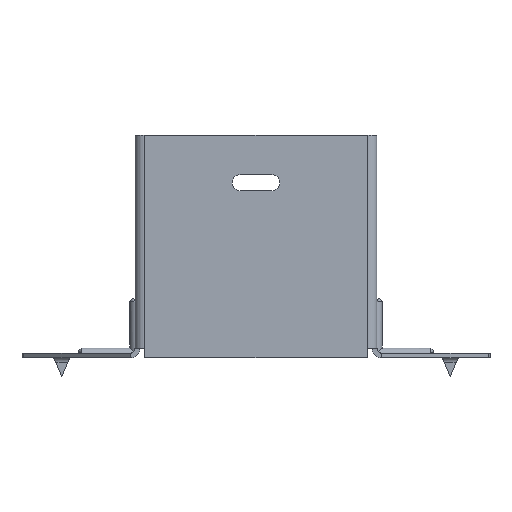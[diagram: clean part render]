
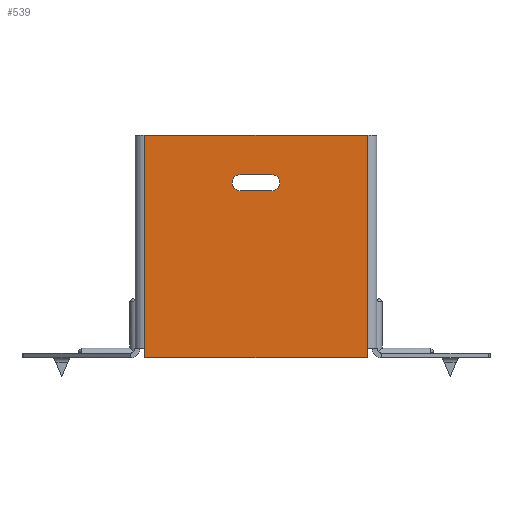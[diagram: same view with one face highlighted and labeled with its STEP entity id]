
A CAD part, front view. The second image highlights one B-rep face of the part: STEP entity #539.
In plain terms, the highlighted planar face has unit normal (0, -1, 0).
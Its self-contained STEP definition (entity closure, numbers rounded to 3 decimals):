
#124 = VERTEX_POINT ( 'NONE', #3733 ) ;
#490 = CARTESIAN_POINT ( 'NONE',  ( -5., 0., -17.5 ) ) ;
#539 = ADVANCED_FACE ( 'NONE', ( #7537, #6747 ), #11800, .F. ) ;
#554 = CARTESIAN_POINT ( 'NONE',  ( -35., 0., 0. ) ) ;
#611 = CARTESIAN_POINT ( 'NONE',  ( -36.5, 0., -70. ) ) ;
#660 = DIRECTION ( 'NONE',  ( 0., 1., 0. ) ) ;
#849 = CARTESIAN_POINT ( 'NONE',  ( -36.5, 0., 0. ) ) ;
#956 = DIRECTION ( 'NONE',  ( 0., 0., 1. ) ) ;
#1091 = CIRCLE ( 'NONE', #5650, 2.5 ) ;
#1140 = CARTESIAN_POINT ( 'NONE',  ( -35., 0., -67. ) ) ;
#1219 = VECTOR ( 'NONE', #7634, 1000. ) ;
#1548 = VECTOR ( 'NONE', #12576, 1000. ) ;
#1562 = CARTESIAN_POINT ( 'NONE',  ( -35., 0., 0. ) ) ;
#1612 = EDGE_CURVE ( 'NONE', #4136, #7292, #1091, .T. ) ;
#1696 = VERTEX_POINT ( 'NONE', #5618 ) ;
#1939 = DIRECTION ( 'NONE',  ( 1., 0., 0. ) ) ;
#2087 = CARTESIAN_POINT ( 'NONE',  ( 35., 0., -70. ) ) ;
#2375 = CIRCLE ( 'NONE', #9990, 2.5 ) ;
#2737 = CARTESIAN_POINT ( 'NONE',  ( 35., 0., -67. ) ) ;
#3114 = CARTESIAN_POINT ( 'NONE',  ( -35., 0., -70. ) ) ;
#3648 = DIRECTION ( 'NONE',  ( 1., 0., 0. ) ) ;
#3733 = CARTESIAN_POINT ( 'NONE',  ( 5., 0., -17.5 ) ) ;
#3754 = DIRECTION ( 'NONE',  ( 0., 0., 1. ) ) ;
#3812 = ORIENTED_EDGE ( 'NONE', *, *, #14395, .T. ) ;
#3940 = ORIENTED_EDGE ( 'NONE', *, *, #3955, .T. ) ;
#3955 = EDGE_CURVE ( 'NONE', #7742, #6443, #10068, .T. ) ;
#4136 = VERTEX_POINT ( 'NONE', #8001 ) ;
#4213 = DIRECTION ( 'NONE',  ( 0., 0., 1. ) ) ;
#4272 = VERTEX_POINT ( 'NONE', #2087 ) ;
#4489 = LINE ( 'NONE', #611, #8540 ) ;
#4925 = AXIS2_PLACEMENT_3D ( 'NONE', #15426, #14251, #9324 ) ;
#5406 = VECTOR ( 'NONE', #956, 1000. ) ;
#5610 = CARTESIAN_POINT ( 'NONE',  ( 5., 0., -15. ) ) ;
#5618 = CARTESIAN_POINT ( 'NONE',  ( 5., 0., -12.5 ) ) ;
#5650 = AXIS2_PLACEMENT_3D ( 'NONE', #8041, #660, #4213 ) ;
#5852 = CARTESIAN_POINT ( 'NONE',  ( -5., 0., -12.5 ) ) ;
#5983 = EDGE_CURVE ( 'NONE', #4272, #6443, #4489, .T. ) ;
#6234 = LINE ( 'NONE', #849, #8369 ) ;
#6299 = ORIENTED_EDGE ( 'NONE', *, *, #12782, .T. ) ;
#6443 = VERTEX_POINT ( 'NONE', #3114 ) ;
#6588 = EDGE_CURVE ( 'NONE', #12210, #7017, #11174, .T. ) ;
#6747 = FACE_OUTER_BOUND ( 'NONE', #9449, .T. ) ;
#6868 = ORIENTED_EDGE ( 'NONE', *, *, #5983, .F. ) ;
#6895 = DIRECTION ( 'NONE',  ( 0., 1., 0. ) ) ;
#6996 = VERTEX_POINT ( 'NONE', #554 ) ;
#7017 = VERTEX_POINT ( 'NONE', #8160 ) ;
#7292 = VERTEX_POINT ( 'NONE', #9956 ) ;
#7537 = FACE_BOUND ( 'NONE', #14512, .T. ) ;
#7634 = DIRECTION ( 'NONE',  ( 0., 0., -1. ) ) ;
#7742 = VERTEX_POINT ( 'NONE', #1140 ) ;
#8001 = CARTESIAN_POINT ( 'NONE',  ( -5., 0., -17.5 ) ) ;
#8041 = CARTESIAN_POINT ( 'NONE',  ( -5., 0., -15. ) ) ;
#8160 = CARTESIAN_POINT ( 'NONE',  ( 35., 0., 0. ) ) ;
#8369 = VECTOR ( 'NONE', #1939, 1000. ) ;
#8540 = VECTOR ( 'NONE', #10676, 1000. ) ;
#9255 = DIRECTION ( 'NONE',  ( 0., 0., 1. ) ) ;
#9324 = DIRECTION ( 'NONE',  ( 0., 0., 1. ) ) ;
#9449 = EDGE_LOOP ( 'NONE', ( #9623, #3940, #6868, #3812, #12563, #15405 ) ) ;
#9623 = ORIENTED_EDGE ( 'NONE', *, *, #11473, .T. ) ;
#9748 = ORIENTED_EDGE ( 'NONE', *, *, #14813, .T. ) ;
#9946 = CARTESIAN_POINT ( 'NONE',  ( -35., 0., 0. ) ) ;
#9956 = CARTESIAN_POINT ( 'NONE',  ( -5., 0., -12.5 ) ) ;
#9990 = AXIS2_PLACEMENT_3D ( 'NONE', #5610, #6895, #9255 ) ;
#10068 = LINE ( 'NONE', #1562, #1219 ) ;
#10458 = LINE ( 'NONE', #5852, #11242 ) ;
#10676 = DIRECTION ( 'NONE',  ( -1., 0., 0. ) ) ;
#10958 = CARTESIAN_POINT ( 'NONE',  ( 35., 0., -70. ) ) ;
#11084 = DIRECTION ( 'NONE',  ( 0., 0., -1. ) ) ;
#11119 = CARTESIAN_POINT ( 'NONE',  ( 35., 0., -70. ) ) ;
#11174 = LINE ( 'NONE', #10958, #5406 ) ;
#11242 = VECTOR ( 'NONE', #3648, 1000. ) ;
#11473 = EDGE_CURVE ( 'NONE', #6996, #7742, #13719, .T. ) ;
#11637 = ORIENTED_EDGE ( 'NONE', *, *, #1612, .T. ) ;
#11800 = PLANE ( 'NONE',  #4925 ) ;
#11840 = EDGE_CURVE ( 'NONE', #6996, #7017, #6234, .T. ) ;
#11941 = EDGE_CURVE ( 'NONE', #7292, #1696, #10458, .T. ) ;
#12210 = VERTEX_POINT ( 'NONE', #2737 ) ;
#12563 = ORIENTED_EDGE ( 'NONE', *, *, #6588, .T. ) ;
#12576 = DIRECTION ( 'NONE',  ( -1., 0., 0. ) ) ;
#12647 = ORIENTED_EDGE ( 'NONE', *, *, #11941, .T. ) ;
#12782 = EDGE_CURVE ( 'NONE', #1696, #124, #2375, .T. ) ;
#13455 = VECTOR ( 'NONE', #3754, 1000. ) ;
#13719 = LINE ( 'NONE', #9946, #14879 ) ;
#14251 = DIRECTION ( 'NONE',  ( 0., 1., 0. ) ) ;
#14395 = EDGE_CURVE ( 'NONE', #4272, #12210, #15374, .T. ) ;
#14412 = LINE ( 'NONE', #490, #1548 ) ;
#14512 = EDGE_LOOP ( 'NONE', ( #9748, #11637, #12647, #6299 ) ) ;
#14813 = EDGE_CURVE ( 'NONE', #124, #4136, #14412, .T. ) ;
#14879 = VECTOR ( 'NONE', #11084, 1000. ) ;
#15374 = LINE ( 'NONE', #11119, #13455 ) ;
#15405 = ORIENTED_EDGE ( 'NONE', *, *, #11840, .F. ) ;
#15426 = CARTESIAN_POINT ( 'NONE',  ( 0., 0., 0. ) ) ;
